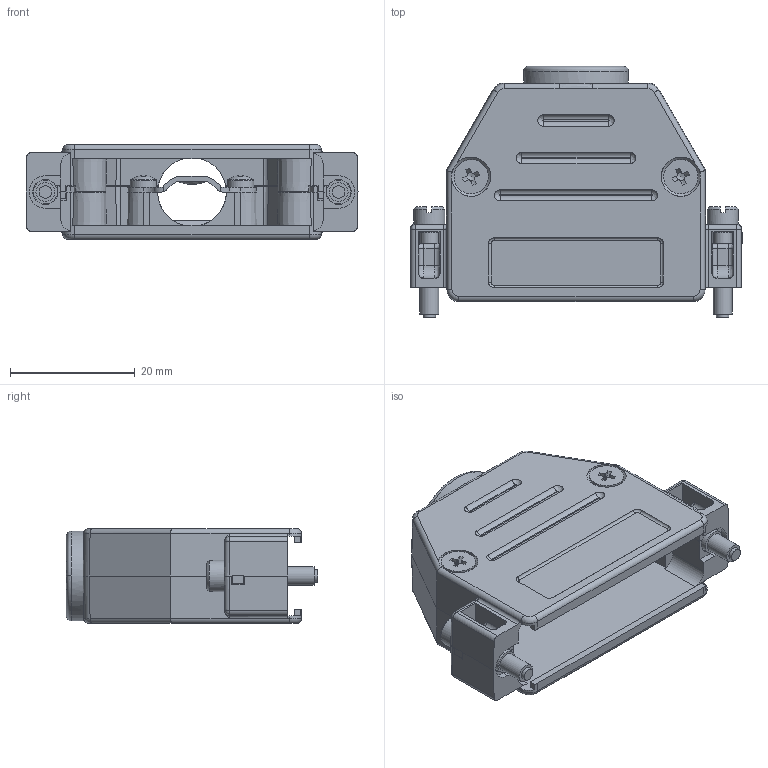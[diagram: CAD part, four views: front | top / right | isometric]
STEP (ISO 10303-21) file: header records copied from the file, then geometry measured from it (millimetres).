
FILE_DESCRIPTION(/* description */ (''),/* implementation_level */ '2;1');
FILE_NAME(/* name */ '100661118ugm000_a.stp',/* time_stamp */ '2016-02-19T07:11:08+01:00',/* author */ (''),/* organization */ (''),/* preprocessor_version */ 'ST-DEVELOPER v16',/* originating_system */ 'SIEMENS PLM Software NX 10.0',/* authorisation */ '');
FILE_SCHEMA (('AUTOMOTIVE_DESIGN { 1 0 10303 214 3 1 1 1 }'));
Length unit declared in the file: millimetre
Products named in the file (1): 100661118ugm000_a
Bounding box: 53.2 x 40.3 x 15.2 mm (x, y, z)
Volume: 6892.2 mm3; surface area: 11164 mm2
Topology: 3 solids, 9 shells, 704 faces, 1868 edges, 1186 vertices
Faces by surface type: plane 366, cylinder 202, cone 58, bspline 46, torus 25, sphere 6, extrusion 1
Full cylindrical faces by diameter (mm): 2 x2, 2.1 x2, 2.6 x2, 2.8 x2, 2.9 x4, 3 x4, 3.2 x2, 3.25 x2, 3.8 x2, 4.2 x2, 5 x2, 5.5 x2, 6.3 x2, 11 x2
Entity records: 27559 total; most frequent: CARTESIAN_POINT 5912, ORIENTED_EDGE 3488, DIRECTION 3385, EDGE_CURVE 1744, AXIS2_PLACEMENT_3D 1233, VERTEX_POINT 1140, VECTOR 919, LINE 918
